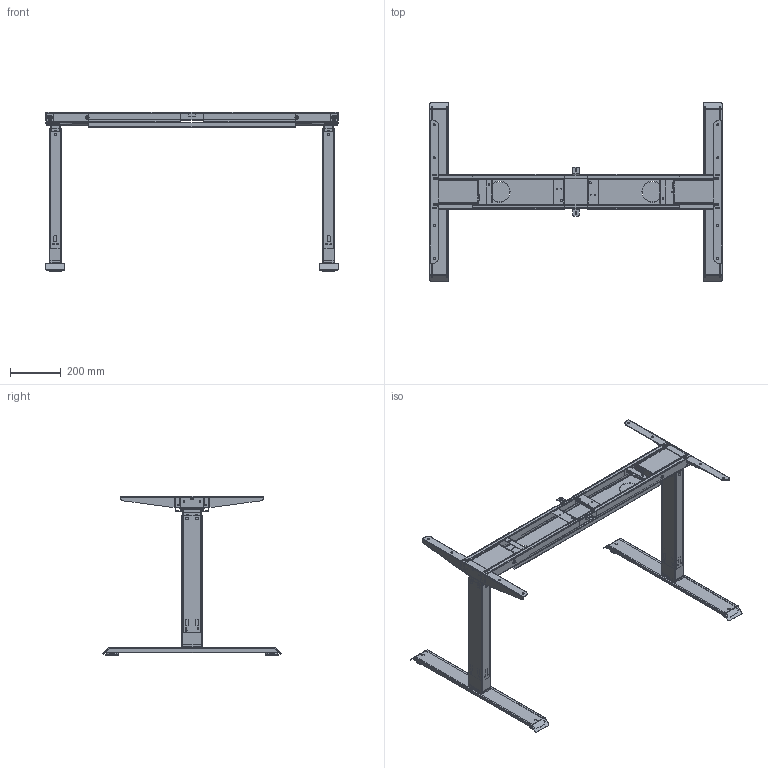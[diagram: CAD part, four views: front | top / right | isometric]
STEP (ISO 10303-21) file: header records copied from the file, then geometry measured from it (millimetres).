
FILE_DESCRIPTION(/* description */ ('Unknown'),/* implementation_level */ '2;1');
FILE_NAME(/* name */ 'Frame FBC-585-650-S-F2-EU-H1_eingefahren',/* time_stamp */ '2026-10-02T11:10:48+02:00',/* author */ ('Unknown'),/* organization */ ('Unknown'),/* preprocessor_version */ 'ST-DEVELOPER v20',/* originating_system */ 'Solid Edge',/* authorisation */ 'Unknown');
FILE_SCHEMA (('AUTOMOTIVE_DESIGN {1 0 10303 214 3 1 1}'));
Products named in the file (1): Frame FBC-585-650-S-F2-EU-H1_schmal_niedrig
Bounding box: 1148 x 700.1 x 625 mm (x, y, z)
Volume: 2791964.7 mm3; surface area: 3286434.9 mm2
Topology: 49 solids, 49 shells, 3152 faces, 8640 edges, 5648 vertices
Faces by surface type: plane 1618, cylinder 1334, torus 72, bspline 64, cone 48, sphere 16
Full cylindrical faces by diameter (mm): 8.5 x40, 10 x44, 20 x4, 24 x4, 28 x4, 32 x4, 36 x4, 40 x4, 50 x4
Entity records: 115515 total; most frequent: CARTESIAN_POINT 33867, ORIENTED_EDGE 17248, DIRECTION 16594, EDGE_CURVE 8624, VERTEX_POINT 5648, AXIS2_PLACEMENT_3D 5637, LINE 5320, VECTOR 5320
